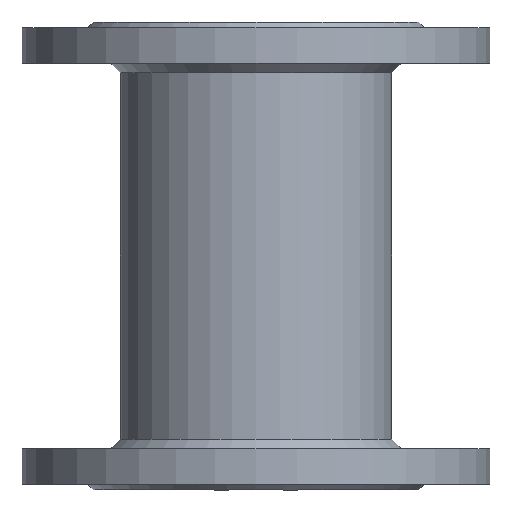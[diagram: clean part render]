
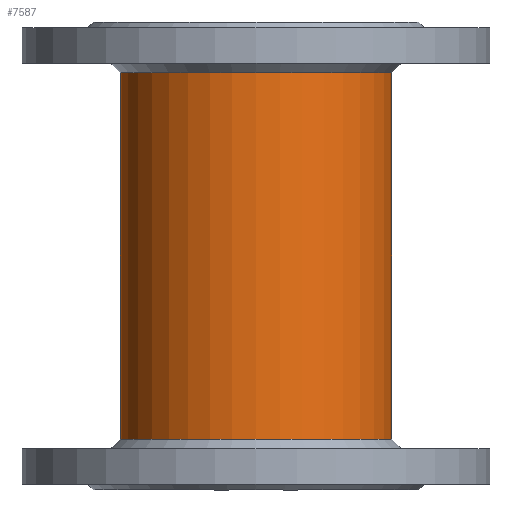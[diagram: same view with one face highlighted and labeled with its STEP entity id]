
A CAD part, front view. The second image highlights one B-rep face of the part: STEP entity #7587.
In plain terms, the highlighted cylindrical face has radius 72.5 mm (diameter 145 mm), a full revolution.
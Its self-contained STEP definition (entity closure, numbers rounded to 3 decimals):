
#770=CIRCLE('',#27007,72.5);
#771=CIRCLE('',#27008,72.5);
#3065=LINE('',#44423,#5848);
#3066=LINE('',#44436,#5849);
#5848=VECTOR('',#31875,1.);
#5849=VECTOR('',#31876,1.);
#5968=CYLINDRICAL_SURFACE('',#27009,72.5);
#6198=FACE_BOUND('',#11063,.T.);
#6199=FACE_BOUND('',#11064,.T.);
#6200=FACE_BOUND('',#11065,.T.);
#7587=ADVANCED_FACE('',(#6198,#6199,#6200),#5968,.T.);
#11063=EDGE_LOOP('',(#18268,#18269,#18270,#18271));
#11064=EDGE_LOOP('',(#18272));
#11065=EDGE_LOOP('',(#18273));
#18268=ORIENTED_EDGE('',*,*,#24354,.F.);
#18269=ORIENTED_EDGE('',*,*,#24358,.T.);
#18270=ORIENTED_EDGE('',*,*,#24356,.F.);
#18271=ORIENTED_EDGE('',*,*,#24359,.T.);
#18272=ORIENTED_EDGE('',*,*,#24360,.T.);
#18273=ORIENTED_EDGE('',*,*,#24361,.T.);
#20750=VERTEX_POINT('',#44421);
#20751=VERTEX_POINT('',#44422);
#20752=VERTEX_POINT('',#44424);
#20753=VERTEX_POINT('',#44435);
#20755=VERTEX_POINT('',#44462);
#20756=VERTEX_POINT('',#44464);
#24354=EDGE_CURVE('',#20751,#20752,#3065,.T.);
#24356=EDGE_CURVE('',#20753,#20750,#3066,.T.);
#24358=EDGE_CURVE('',#20751,#20750,#25979,.T.);
#24359=EDGE_CURVE('',#20753,#20752,#25980,.T.);
#24360=EDGE_CURVE('',#20755,#20755,#770,.T.);
#24361=EDGE_CURVE('',#20756,#20756,#771,.T.);
#25979=B_SPLINE_CURVE_WITH_KNOTS('',3,(#44441,#44442,#44443,#44444,#44445,
#44446,#44447,#44448,#44449,#44450),.UNSPECIFIED.,.F.,.F.,(4,2,2,2,4),(0.,
0.25,0.5,0.75,1.),.UNSPECIFIED.);
#25980=B_SPLINE_CURVE_WITH_KNOTS('',3,(#44451,#44452,#44453,#44454,#44455,
#44456,#44457,#44458,#44459,#44460),.UNSPECIFIED.,.F.,.F.,(4,2,2,2,4),(0.,
0.25,0.5,0.75,1.),.UNSPECIFIED.);
#27007=AXIS2_PLACEMENT_3D('',#44461,#31883,#31884);
#27008=AXIS2_PLACEMENT_3D('',#44463,#31885,#31886);
#27009=AXIS2_PLACEMENT_3D('',#44465,#31887,#31888);
#31875=DIRECTION('',(0.,0.,-1.));
#31876=DIRECTION('',(0.,0.,1.));
#31883=DIRECTION('',(0.,0.,-1.));
#31884=DIRECTION('',(0.,1.,0.));
#31885=DIRECTION('',(0.,0.,1.));
#31886=DIRECTION('',(0.,-1.,0.));
#31887=DIRECTION('',(0.,0.,-1.));
#31888=DIRECTION('',(0.,-1.,0.));
#44421=CARTESIAN_POINT('',(-16.912,6.,7.233));
#44422=CARTESIAN_POINT('',(16.912,6.,7.236));
#44423=CARTESIAN_POINT('',(16.912,6.,-916.158));
#44424=CARTESIAN_POINT('',(16.912,6.,-7.235));
#44435=CARTESIAN_POINT('',(-16.912,6.,-7.236));
#44436=CARTESIAN_POINT('',(-16.912,6.,-916.158));
#44441=CARTESIAN_POINT('',(16.912,6.,7.236));
#44442=CARTESIAN_POINT('',(15.233,6.403,10.191));
#44443=CARTESIAN_POINT('',(12.696,6.942,12.524));
#44444=CARTESIAN_POINT('',(6.761,7.746,15.712));
#44445=CARTESIAN_POINT('',(3.36,8.,16.541));
#44446=CARTESIAN_POINT('',(-3.38,8.,16.536));
#44447=CARTESIAN_POINT('',(-6.756,7.747,15.713));
#44448=CARTESIAN_POINT('',(-12.693,6.943,12.53));
#44449=CARTESIAN_POINT('',(-15.233,6.403,10.188));
#44450=CARTESIAN_POINT('',(-16.912,6.,7.233));
#44451=CARTESIAN_POINT('',(-16.912,6.,-7.236));
#44452=CARTESIAN_POINT('',(-15.239,6.401,-10.194));
#44453=CARTESIAN_POINT('',(-12.699,6.942,-12.525));
#44454=CARTESIAN_POINT('',(-6.759,7.746,-15.712));
#44455=CARTESIAN_POINT('',(-3.36,8.,-16.539));
#44456=CARTESIAN_POINT('',(3.381,8.,-16.539));
#44457=CARTESIAN_POINT('',(6.756,7.747,-15.713));
#44458=CARTESIAN_POINT('',(12.695,6.943,-12.526));
#44459=CARTESIAN_POINT('',(15.236,6.402,-10.19));
#44460=CARTESIAN_POINT('',(16.912,6.,-7.235));
#44461=CARTESIAN_POINT('',(0.,-64.5,93.242));
#44462=CARTESIAN_POINT('',(0.,8.,93.242));
#44463=CARTESIAN_POINT('',(0.,-64.5,-102.758));
#44464=CARTESIAN_POINT('',(0.,-137.,-102.758));
#44465=CARTESIAN_POINT('',(0.,-64.5,-916.158));
